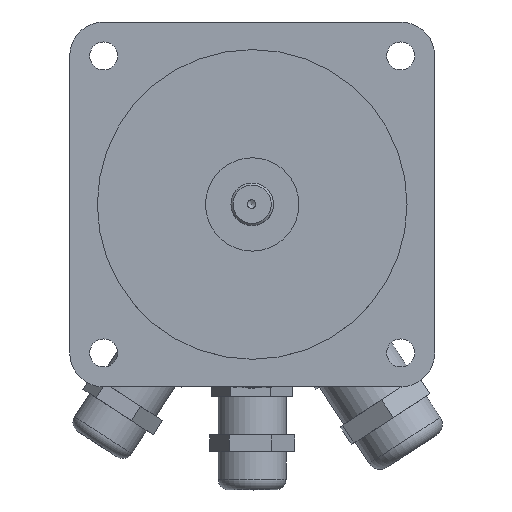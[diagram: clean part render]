
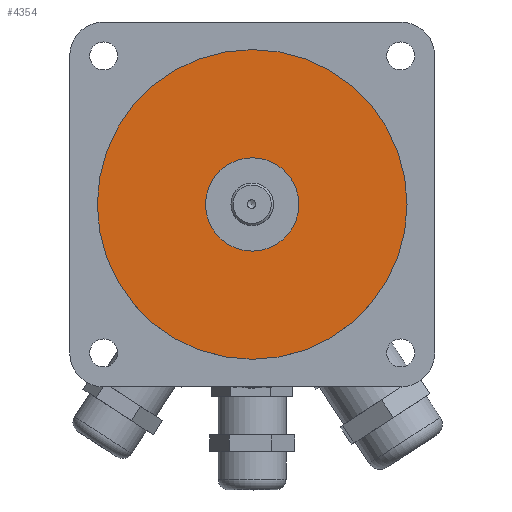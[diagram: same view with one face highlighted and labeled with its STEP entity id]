
A CAD part, top view. The second image highlights one B-rep face of the part: STEP entity #4354.
In plain terms, the highlighted planar face has unit normal (0, 0, 1).
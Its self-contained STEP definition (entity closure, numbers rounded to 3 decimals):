
#4327=CARTESIAN_POINT('',(0.0,0.0,54.5));
#4328=DIRECTION('',(0.0,0.0,-1.0));
#4329=DIRECTION('',(1.0,0.0,0.0));
#4330=AXIS2_PLACEMENT_3D('',#4327,#4328,#4329);
#4331=PLANE('',#4330);
#4332=CARTESIAN_POINT('',(-36.5,0.,54.5));
#4333=VERTEX_POINT('',#4332);
#4334=CARTESIAN_POINT('',(0.0,0.0,54.5));
#4335=DIRECTION('',(0.0,0.0,-1.0));
#4336=DIRECTION('',(1.0,0.0,0.0));
#4337=AXIS2_PLACEMENT_3D('',#4334,#4335,#4336);
#4338=CIRCLE('',#4337,36.5);
#4339=EDGE_CURVE('',#4333,#4333,#4338,.T.);
#4340=ORIENTED_EDGE('',*,*,#4339,.F.);
#4341=EDGE_LOOP('',(#4340));
#4342=FACE_OUTER_BOUND('',#4341,.T.);
#4343=CARTESIAN_POINT('',(-11.0,0.,54.5));
#4344=VERTEX_POINT('',#4343);
#4345=CARTESIAN_POINT('',(0.0,0.0,54.5));
#4346=DIRECTION('',(0.0,0.0,-1.0));
#4347=DIRECTION('',(1.0,0.0,0.0));
#4348=AXIS2_PLACEMENT_3D('',#4345,#4346,#4347);
#4349=CIRCLE('',#4348,11.0);
#4350=EDGE_CURVE('',#4344,#4344,#4349,.T.);
#4351=ORIENTED_EDGE('',*,*,#4350,.T.);
#4352=EDGE_LOOP('',(#4351));
#4353=FACE_BOUND('',#4352,.T.);
#4354=ADVANCED_FACE('',(#4342,#4353),#4331,.F.);
